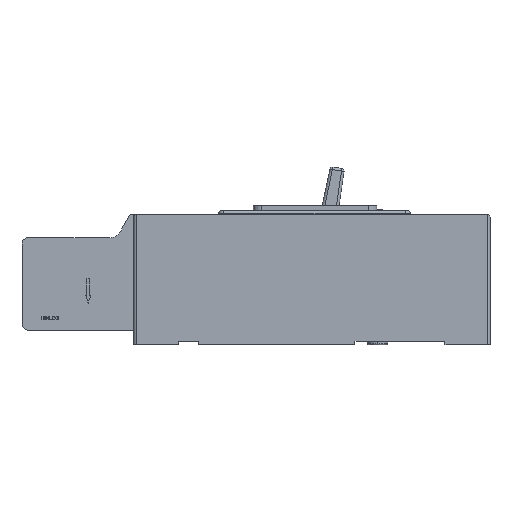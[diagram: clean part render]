
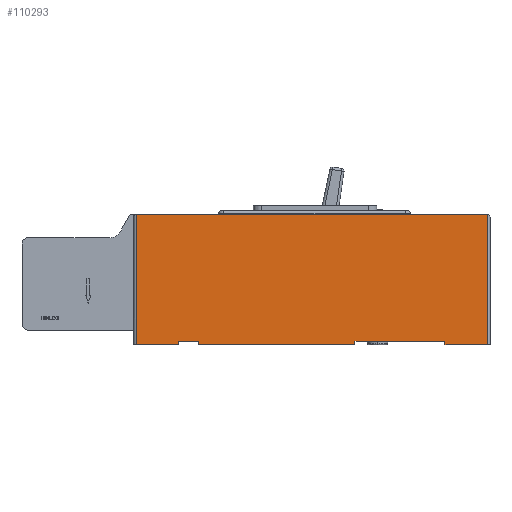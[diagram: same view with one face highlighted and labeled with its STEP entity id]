
A CAD part, left-side view. The second image highlights one B-rep face of the part: STEP entity #110293.
In plain terms, the highlighted planar face has unit normal (-1, 0, 0).
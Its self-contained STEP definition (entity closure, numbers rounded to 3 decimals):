
#7713=DIRECTION('',(0.,-1.,0.));
#7714=VECTOR('',#7713,70.);
#7715=CARTESIAN_POINT('',(-0.25,104.5,0.));
#7716=LINE('',#7715,#7714);
#8759=DIRECTION('',(0.,0.,1.));
#8760=VECTOR('',#8759,101.5);
#8761=CARTESIAN_POINT('',(-0.25,1.5,-3.));
#8762=LINE('',#8761,#8760);
#8796=DIRECTION('',(0.,-1.,0.));
#8797=VECTOR('',#8796,273.);
#8798=CARTESIAN_POINT('',(-0.25,274.5,98.5));
#8799=LINE('',#8798,#8797);
#8800=DIRECTION('',(0.,1.,0.));
#8801=VECTOR('',#8800,33.);
#8802=CARTESIAN_POINT('',(-0.25,1.5,-3.));
#8803=LINE('',#8802,#8801);
#8804=DIRECTION('',(0.,0.,1.));
#8805=VECTOR('',#8804,3.);
#8806=CARTESIAN_POINT('',(-0.25,34.5,-3.));
#8807=LINE('',#8806,#8805);
#8808=DIRECTION('',(0.,0.,1.));
#8809=VECTOR('',#8808,3.);
#8810=CARTESIAN_POINT('',(-0.25,104.5,-3.));
#8811=LINE('',#8810,#8809);
#8812=DIRECTION('',(0.,0.,1.));
#8813=VECTOR('',#8812,3.);
#8814=CARTESIAN_POINT('',(-0.25,241.5,-3.));
#8815=LINE('',#8814,#8813);
#8816=DIRECTION('',(0.,1.,0.));
#8817=VECTOR('',#8816,33.);
#8818=CARTESIAN_POINT('',(-0.25,241.5,-3.));
#8819=LINE('',#8818,#8817);
#8824=DIRECTION('',(0.,0.,-1.));
#8825=VECTOR('',#8824,101.5);
#8826=CARTESIAN_POINT('',(-0.25,274.5,98.5));
#8827=LINE('',#8826,#8825);
#11671=DIRECTION('',(0.,-1.,0.));
#11672=VECTOR('',#11671,15.);
#11673=CARTESIAN_POINT('',(-0.25,241.5,0.));
#11674=LINE('',#11673,#11672);
#11873=DIRECTION('',(0.,0.,1.));
#11874=VECTOR('',#11873,3.);
#11875=CARTESIAN_POINT('',(-0.25,226.5,-3.));
#11876=LINE('',#11875,#11874);
#11893=DIRECTION('',(0.,-1.,0.));
#11894=VECTOR('',#11893,122.);
#11895=CARTESIAN_POINT('',(-0.25,226.5,-3.));
#11896=LINE('',#11895,#11894);
#72984=CARTESIAN_POINT('',(-0.25,34.5,-3.));
#72985=CARTESIAN_POINT('',(-0.25,34.5,0.));
#72986=VERTEX_POINT('',#72984);
#72987=VERTEX_POINT('',#72985);
#72988=CARTESIAN_POINT('',(-0.25,241.5,-3.));
#72989=CARTESIAN_POINT('',(-0.25,241.5,0.));
#72990=VERTEX_POINT('',#72988);
#72991=VERTEX_POINT('',#72989);
#73004=CARTESIAN_POINT('',(-0.25,274.5,-3.));
#73006=VERTEX_POINT('',#73004);
#73013=CARTESIAN_POINT('',(-0.25,1.5,-3.));
#73015=VERTEX_POINT('',#73013);
#73193=CARTESIAN_POINT('',(-0.25,226.5,-3.));
#73195=VERTEX_POINT('',#73193);
#73197=CARTESIAN_POINT('',(-0.25,226.5,0.));
#73199=VERTEX_POINT('',#73197);
#73213=CARTESIAN_POINT('',(-0.25,104.5,-3.));
#73215=VERTEX_POINT('',#73213);
#73216=CARTESIAN_POINT('',(-0.25,104.5,0.));
#73217=VERTEX_POINT('',#73216);
#92123=CARTESIAN_POINT('',(-0.25,1.5,98.5));
#92125=VERTEX_POINT('',#92123);
#92126=CARTESIAN_POINT('',(-0.25,274.5,98.5));
#92128=VERTEX_POINT('',#92126);
#110265=CARTESIAN_POINT('',(-0.25,0.,0.));
#110266=DIRECTION('',(-1.,0.,0.));
#110267=DIRECTION('',(0.,-1.,0.));
#110268=AXIS2_PLACEMENT_3D('',#110265,#110266,#110267);
#110269=PLANE('',#110268);
#110271=ORIENTED_EDGE('',*,*,#110270,.F.);
#110273=ORIENTED_EDGE('',*,*,#110272,.T.);
#110274=ORIENTED_EDGE('',*,*,#110255,.F.);
#110276=ORIENTED_EDGE('',*,*,#110275,.T.);
#110278=ORIENTED_EDGE('',*,*,#110277,.T.);
#110279=ORIENTED_EDGE('',*,*,#109119,.F.);
#110280=ORIENTED_EDGE('',*,*,#109658,.F.);
#110282=ORIENTED_EDGE('',*,*,#110281,.F.);
#110284=ORIENTED_EDGE('',*,*,#110283,.T.);
#110286=ORIENTED_EDGE('',*,*,#110285,.F.);
#110288=ORIENTED_EDGE('',*,*,#110287,.F.);
#110290=ORIENTED_EDGE('',*,*,#110289,.T.);
#110291=EDGE_LOOP('',(#110271,#110273,#110274,#110276,#110278,#110279,#110280,
#110282,#110284,#110286,#110288,#110290));
#110292=FACE_OUTER_BOUND('',#110291,.F.);
#110293=ADVANCED_FACE('',(#110292),#110269,.T.);
#109119=EDGE_CURVE('',#73217,#72987,#7716,.T.);
#109658=EDGE_CURVE('',#73215,#73217,#8811,.T.);
#110255=EDGE_CURVE('',#73015,#92125,#8762,.T.);
#110270=EDGE_CURVE('',#92128,#73006,#8827,.T.);
#110272=EDGE_CURVE('',#92128,#92125,#8799,.T.);
#110275=EDGE_CURVE('',#73015,#72986,#8803,.T.);
#110277=EDGE_CURVE('',#72986,#72987,#8807,.T.);
#110281=EDGE_CURVE('',#73195,#73215,#11896,.T.);
#110283=EDGE_CURVE('',#73195,#73199,#11876,.T.);
#110285=EDGE_CURVE('',#72991,#73199,#11674,.T.);
#110287=EDGE_CURVE('',#72990,#72991,#8815,.T.);
#110289=EDGE_CURVE('',#72990,#73006,#8819,.T.);
